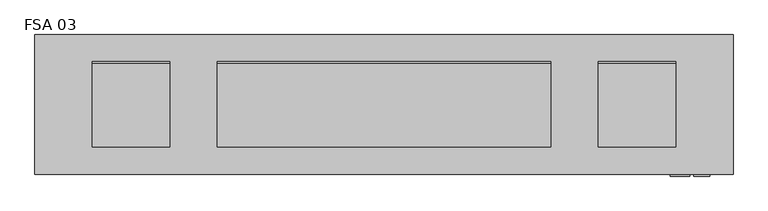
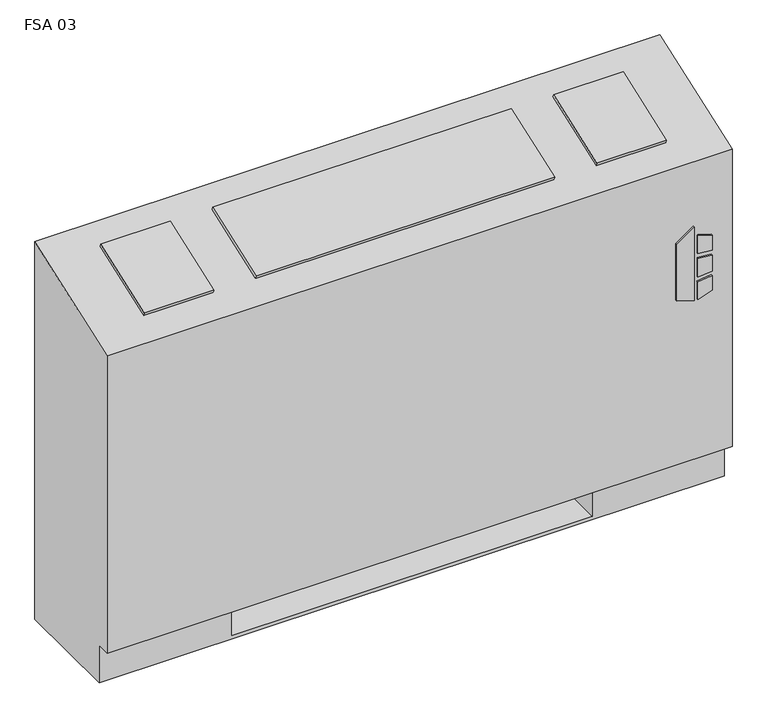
"""IFC4 building model written with IfcOpenShell, lengths in millimetres: proxy geometry, Vertical_Fan_Coil_Unit_-_FSA_-_IEC_-_2-Pipe_TS-FR_RH_2022 : FSA 03."""

from ifc_helpers import new_model, si_unit, point, frame, frame_2d, origin, place, context, project, spatial, polyline, circle_curve, trimmed, segment, composite_curve, outline, extrude, source, transform, mapped, element, save
from ifc_brep_helpers import plane_surface, revolved_surface, advanced_brep


def fsa_03_bbf9bb24(model_context):
    return source(origin(), model_context, "Body", "SolidModel", [
        extrude(outline(polyline([(391.6086829, 620.7868862), (381.6606126, 652.9602728), (523.831537, 652.9602728), (500.8095309, 620.7868862), (391.6086829, 620.7868862)])), frame((0.0, 12.7, 0.0), z_axis=(0.0, 1.0, 0.0), x_axis=(0.0, 0.0, 1.0)), (0.0, 0.0, 1.0), 3.175),
        extrude(outline(polyline([(470.6079683, 659.7186058), (467.4055757, 685.8), (496.6344168, 685.8), (504.6988318, 659.7186058), (470.6079683, 659.7186058)])), frame((0.0, 12.7, 0.0), z_axis=(0.0, 1.0, 0.0), x_axis=(0.0, 0.0, 1.0)), (0.0, 0.0, 1.0), 3.175),
        extrude(outline(polyline([(418.7444414, 685.8), (415.0789404, 659.7186058), (381.6606126, 659.7186058), (390.2948498, 685.8), (418.7444414, 685.8)])), frame((0.0, 12.7, 0.0), z_axis=(0.0, 1.0, 0.0), x_axis=(0.0, 0.0, 1.0)), (0.0, 0.0, 1.0), 3.175),
        extrude(outline(polyline([(458.0596028, 685.8), (460.3414292, 659.7186058), (424.4038806, 659.7186058), (427.1451456, 685.8), (458.0596028, 685.8)])), frame((0.0, 12.7, 0.0), z_axis=(0.0, 1.0, 0.0), x_axis=(0.0, 0.0, 1.0)), (0.0, 0.0, 1.0), 3.175),
        extrude(outline(polyline([(-298.45, 81.534), (-298.45, 223.266), (-177.8, 223.266), (-177.8, 81.534), (-298.45, 81.534)])), frame((0.0, 0.0, 327.025), z_axis=(0.0, 0.0, 1.0), x_axis=(1.0, 0.0, 0.0)), (0.0, 0.0, 1.0), 260.35),
        extrude(outline(composite_curve([segment(trimmed(circle_curve(frame_2d((546.1, 130.175)), 9.525), [point((536.575, 130.175))], [point((555.625, 130.175))], False, "CARTESIAN"), True, "CONTINUOUS"), segment(trimmed(circle_curve(frame_2d((546.1, 130.175)), 9.525), [point((555.625, 130.175))], [point((536.575, 130.175))], False, "CARTESIAN"), True, "CONTINUOUS")], self_intersect=False)), frame((0.0, 0.0, 101.6), z_axis=(0.0, 0.0, 1.0), x_axis=(1.0, 0.0, 0.0)), (0.0, 0.0, 1.0), 25.4),
        extrude(outline(polyline([(647.7, 196.85), (647.7, 63.5), (482.6, 63.5), (482.6, 196.85), (647.7, 196.85)])), frame((0.0, 0.0, 127.0), z_axis=(0.0, 0.0, 1.0), x_axis=(1.0, 0.0, 0.0)), (0.0, 0.0, 1.0), 50.8),
        extrude(outline(polyline([(0.0, -146.0500001), (0.0, 0.0), (127.0, 0.0), (127.0, -146.0500001), (0.0, -146.0500001)])), frame((-324.993, 200.4217127, 714.3418685), z_axis=(0.0, -0.3396444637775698, 0.9405538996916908), x_axis=(1.0, 0.0, 0.0)), (0.0, 0.0, 1.0), 6.35),
        extrude(outline(polyline([(0.0, -146.0500001), (0.0, 0.0), (546.1, 0.0), (546.1, -146.0500001), (0.0, -146.0500001)])), frame((425.45, 63.0538156, 664.7367945), z_axis=(0.0, -0.33964446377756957, 0.9405538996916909), x_axis=(-1.0, 0.0, 0.0)), (0.0, 0.0, 1.0), 6.35),
        extrude(outline(polyline([(0.0, -146.0500001), (0.0, 0.0), (127.0, 0.0), (127.0, -146.0500001), (0.0, -146.0500001)])), frame((629.793, 63.0538156, 664.7367945), z_axis=(0.0, -0.3396444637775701, 0.9405538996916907), x_axis=(-1.0, 0.0, 0.0)), (0.0, 0.0, 1.0), 6.35),
        extrude(outline(composite_curve([segment(trimmed(circle_curve(frame_2d((109.347, 456.819)), 7.9375), [point((109.347, 464.7565))], [point((109.347, 448.8815))], False, "CARTESIAN"), True, "CONTINUOUS"), segment(trimmed(circle_curve(frame_2d((109.347, 456.819)), 7.9375), [point((109.347, 448.8815))], [point((109.347, 464.7565))], False, "CARTESIAN"), True, "CONTINUOUS")], self_intersect=False)), frame((482.6, 0.0, 0.0), z_axis=(1.0, 0.0, 0.0), x_axis=(0.0, 1.0, 0.0)), (0.0, 0.0, 1.0), 50.8),
        extrude(outline(composite_curve([segment(trimmed(circle_curve(frame_2d((157.4546, 429.4632)), 7.9375), [point((157.4546, 437.4007))], [point((157.4546, 421.5257))], False, "CARTESIAN"), True, "CONTINUOUS"), segment(trimmed(circle_curve(frame_2d((157.4546, 429.4632)), 7.9375), [point((157.4546, 421.5257))], [point((157.4546, 437.4007))], False, "CARTESIAN"), True, "CONTINUOUS")], self_intersect=False)), frame((482.6, 0.0, 0.0), z_axis=(1.0, 0.0, 0.0), x_axis=(0.0, 1.0, 0.0)), (0.0, 0.0, 1.0), 50.8),
        advanced_brep(
        [(-419.1, 244.475, 0.0), (723.9, 244.475, 0.0), (723.9, 41.275, 0.0), (-419.1, 41.275, 0.0), (-419.1, 244.475, 730.25), (723.9, 244.475, 730.25), (482.6, 244.475, 73.025), (711.2, 244.475, 73.025), (711.2, 244.475, 654.05), (482.6, 244.475, 654.05), (482.6, 244.475, 414.8650565), (511.175, 244.475, 414.8650565), (511.175, 244.475, 385.2349435), (482.6, 244.475, 385.2349435), (482.6, 244.475, 287.3375), (511.175, 244.475, 287.3375), (511.175, 244.475, 258.7625), (482.6, 244.475, 258.7625), (482.6, 244.475, 141.2875), (511.175, 244.475, 141.2875), (511.175, 244.475, 112.7125), (482.6, 244.475, 112.7125), (-177.8, 244.475, 654.05), (-406.4, 244.475, 654.05), (-406.4, 244.475, 73.025), (-177.8, 244.475, 73.025), (-177.8, 244.475, 112.7125), (-206.375, 244.475, 112.7125), (-206.375, 244.475, 141.2875), (-177.8, 244.475, 141.2875), (-177.8, 244.475, 258.7625), (-206.375, 244.475, 258.7625), (-206.375, 244.475, 287.3375), (-177.8, 244.475, 287.3375), (-177.8, 244.475, 385.2349435), (-206.375, 244.475, 385.2349435), (-206.375, 244.475, 414.8650565), (-177.8, 244.475, 414.8650565), (500.8626, 244.475, 127.0), (489.7374, 244.475, 127.0), (500.8626, 244.475, 400.05), (489.7374, 244.475, 400.05), (500.8626, 244.475, 273.05), (489.7374, 244.475, 273.05), (-184.9374, 244.475, 127.0), (-196.0626, 244.475, 127.0), (-184.9374, 244.475, 273.05), (-196.0626, 244.475, 273.05), (-184.9374, 244.475, 400.05), (-196.0626, 244.475, 400.05), (-419.1, 41.275, 73.025), (-419.1, 15.875, 73.025), (-419.1, 15.875, 647.7), (723.9, 15.875, 73.025), (723.9, 15.875, 647.7), (723.9, 41.275, 73.025), (-177.8, 41.275, 73.025), (-177.8, 225.425, 73.025), (482.6, 225.425, 73.025), (482.6, 41.275, 73.025), (482.6, 41.275, 6.35), (-177.8, 41.275, 6.35), (482.6, 41.275, 654.05), (711.2, 41.275, 654.05), (711.2, 41.275, 73.025), (482.6, 41.275, 73.025), (-177.8, 41.275, 654.05), (-177.8, 41.275, 73.025), (-406.4, 41.275, 73.025), (-406.4, 41.275, 654.05), (482.6, 225.425, 73.025), (482.6, 238.125, 112.7125), (482.6, 238.125, 141.2875), (482.6, 238.125, 258.7625), (482.6, 238.125, 287.3375), (482.6, 238.125, 385.2349435), (482.6, 238.125, 414.8650565), (-177.8, 225.425, 73.025), (-177.8, 238.125, 414.8650565), (-177.8, 238.125, 385.2349435), (-177.8, 238.125, 287.3375), (-177.8, 238.125, 258.7625), (-177.8, 238.125, 141.2875), (-177.8, 238.125, 112.7125), (-177.8, 225.425, 6.35), (482.6, 225.425, 6.35), (511.175, 238.125, 112.7125), (511.175, 238.125, 141.2875), (489.7374, 238.125, 127.0), (500.8626, 238.125, 127.0), (511.175, 238.125, 258.7625), (511.175, 238.125, 287.3375), (489.7374, 238.125, 273.05), (500.8626, 238.125, 273.05), (511.175, 238.125, 385.2349435), (511.175, 238.125, 414.8650565), (489.7374, 238.125, 400.05), (500.8626, 238.125, 400.05), (-206.375, 238.125, 141.2875), (-206.375, 238.125, 112.7125), (-196.0626, 238.125, 127.0), (-184.9374, 238.125, 127.0), (-206.375, 238.125, 287.3375), (-206.375, 238.125, 258.7625), (-196.0626, 238.125, 273.05), (-184.9374, 238.125, 273.05), (-206.375, 238.125, 414.8650565), (-206.375, 238.125, 385.2349435), (-196.0626, 238.125, 400.05), (-184.9374, 238.125, 400.05)],
        [
            (0, 1),
            (1, 2),
            (2, 3),
            (3, 0),
            (0, 4),
            (4, 5),
            (5, 1),
            (6, 7),
            (7, 8),
            (8, 9),
            (9, 10),
            (10, 11),
            (11, 12),
            (12, 13),
            (13, 14),
            (14, 15),
            (15, 16),
            (16, 17),
            (17, 18),
            (18, 19),
            (19, 20),
            (20, 21),
            (21, 6),
            (22, 23),
            (23, 24),
            (24, 25),
            (25, 26),
            (26, 27),
            (27, 28),
            (28, 29),
            (29, 30),
            (30, 31),
            (31, 32),
            (32, 33),
            (33, 34),
            (34, 35),
            (35, 36),
            (36, 37),
            (37, 22),
            (38, 39, circle_curve(frame((495.3, 244.475, 127.0), z_axis=(0.0, -1.0, 0.0), x_axis=(-1.0, 0.0, 0.0)), 5.5626)),
            (39, 38, circle_curve(frame((495.3, 244.475, 127.0), z_axis=(0.0, -1.0, 0.0), x_axis=(-1.0, 0.0, 0.0)), 5.5626)),
            (40, 41, circle_curve(frame((495.3, 244.475, 400.05), z_axis=(0.0, -1.0, 0.0), x_axis=(-1.0, 0.0, 0.0)), 5.5626)),
            (41, 40, circle_curve(frame((495.3, 244.475, 400.05), z_axis=(0.0, -1.0, 0.0), x_axis=(-1.0, 0.0, 0.0)), 5.5626)),
            (42, 43, circle_curve(frame((495.3, 244.475, 273.05), z_axis=(0.0, -1.0, 0.0), x_axis=(-1.0, 0.0, 0.0)), 5.5626)),
            (43, 42, circle_curve(frame((495.3, 244.475, 273.05), z_axis=(0.0, -1.0, 0.0), x_axis=(-1.0, 0.0, 0.0)), 5.5626)),
            (44, 45, circle_curve(frame((-190.5, 244.475, 127.0), z_axis=(0.0, -1.0, 0.0), x_axis=(-1.0, 0.0, 0.0)), 5.5626)),
            (45, 44, circle_curve(frame((-190.5, 244.475, 127.0), z_axis=(0.0, -1.0, 0.0), x_axis=(-1.0, 0.0, 0.0)), 5.5626)),
            (46, 47, circle_curve(frame((-190.5, 244.475, 273.05), z_axis=(0.0, -1.0, 0.0), x_axis=(-1.0, 0.0, 0.0)), 5.5626)),
            (47, 46, circle_curve(frame((-190.5, 244.475, 273.05), z_axis=(0.0, -1.0, 0.0), x_axis=(-1.0, 0.0, 0.0)), 5.5626)),
            (48, 49, circle_curve(frame((-190.5, 244.475, 400.05), z_axis=(0.0, -1.0, 0.0), x_axis=(-1.0, 0.0, 0.0)), 5.5626)),
            (49, 48, circle_curve(frame((-190.5, 244.475, 400.05), z_axis=(0.0, -1.0, 0.0), x_axis=(-1.0, 0.0, 0.0)), 5.5626)),
            (3, 50),
            (50, 51),
            (51, 52),
            (52, 4),
            (51, 53),
            (53, 54),
            (54, 52),
            (5, 54),
            (53, 55),
            (55, 2),
            (50, 56),
            (56, 57),
            (57, 58),
            (58, 59),
            (59, 55),
            (59, 60),
            (60, 61),
            (61, 56),
            (62, 63),
            (63, 64),
            (64, 65),
            (65, 62),
            (66, 67),
            (67, 68),
            (68, 69),
            (69, 66),
            (65, 70),
            (70, 6),
            (21, 71),
            (71, 72),
            (72, 18),
            (17, 73),
            (73, 74),
            (74, 14),
            (13, 75),
            (75, 76),
            (76, 10),
            (9, 62),
            (64, 7),
            (63, 8),
            (69, 23),
            (22, 66),
            (68, 24),
            (67, 77),
            (77, 25),
            (37, 78),
            (78, 79),
            (79, 34),
            (33, 80),
            (80, 81),
            (81, 30),
            (29, 82),
            (82, 83),
            (83, 26),
            (57, 84),
            (84, 85),
            (85, 58),
            (85, 60),
            (84, 61),
            (71, 86),
            (86, 87),
            (87, 72),
            (88, 89, circle_curve(frame((495.3, 238.125, 127.0), z_axis=(0.0, 1.0, 0.0), x_axis=(-1.0, 0.0, 0.0)), 5.5626)),
            (89, 88, circle_curve(frame((495.3, 238.125, 127.0), z_axis=(0.0, 1.0, 0.0), x_axis=(-1.0, 0.0, 0.0)), 5.5626)),
            (73, 90),
            (90, 91),
            (91, 74),
            (92, 93, circle_curve(frame((495.3, 238.125, 273.05), z_axis=(0.0, 1.0, 0.0), x_axis=(-1.0, 0.0, 0.0)), 5.5626)),
            (93, 92, circle_curve(frame((495.3, 238.125, 273.05), z_axis=(0.0, 1.0, 0.0), x_axis=(-1.0, 0.0, 0.0)), 5.5626)),
            (75, 94),
            (94, 95),
            (95, 76),
            (96, 97, circle_curve(frame((495.3, 238.125, 400.05), z_axis=(0.0, 1.0, 0.0), x_axis=(-1.0, 0.0, 0.0)), 5.5626)),
            (97, 96, circle_curve(frame((495.3, 238.125, 400.05), z_axis=(0.0, 1.0, 0.0), x_axis=(-1.0, 0.0, 0.0)), 5.5626)),
            (98, 99),
            (99, 83),
            (82, 98),
            (100, 101, circle_curve(frame((-190.5, 238.125, 127.0), z_axis=(0.0, 1.0, 0.0), x_axis=(-1.0, 0.0, 0.0)), 5.5626)),
            (101, 100, circle_curve(frame((-190.5, 238.125, 127.0), z_axis=(0.0, 1.0, 0.0), x_axis=(-1.0, 0.0, 0.0)), 5.5626)),
            (102, 103),
            (103, 81),
            (80, 102),
            (104, 105, circle_curve(frame((-190.5, 238.125, 273.05), z_axis=(0.0, 1.0, 0.0), x_axis=(-1.0, 0.0, 0.0)), 5.5626)),
            (105, 104, circle_curve(frame((-190.5, 238.125, 273.05), z_axis=(0.0, 1.0, 0.0), x_axis=(-1.0, 0.0, 0.0)), 5.5626)),
            (106, 107),
            (107, 79),
            (78, 106),
            (108, 109, circle_curve(frame((-190.5, 238.125, 400.05), z_axis=(0.0, 1.0, 0.0), x_axis=(-1.0, 0.0, 0.0)), 5.5626)),
            (109, 108, circle_curve(frame((-190.5, 238.125, 400.05), z_axis=(0.0, 1.0, 0.0), x_axis=(-1.0, 0.0, 0.0)), 5.5626)),
            (87, 19),
            (86, 20),
            (91, 15),
            (90, 16),
            (95, 11),
            (94, 12),
            (28, 98),
            (99, 27),
            (32, 102),
            (103, 31),
            (36, 106),
            (107, 35),
            (88, 39),
            (38, 89),
            (96, 41),
            (40, 97),
            (92, 43),
            (42, 93),
            (100, 45),
            (44, 101),
            (104, 47),
            (46, 105),
            (108, 49),
            (48, 109),
        ],
        [
            plane_surface(frame((-419.1, 244.475, 0.0), z_axis=(0.0, 0.0, -1.0), x_axis=(1.0, 0.0, 0.0))),
            plane_surface(frame((723.9, 244.475, 730.25), z_axis=(0.0, 1.0, 0.0), x_axis=(0.0, 0.0, -1.0))),
            plane_surface(frame((-419.1, 244.475, 730.25), z_axis=(-1.0, 0.0, 0.0), x_axis=(0.0, 0.0, -1.0))),
            plane_surface(frame((-419.1, 15.875, 730.25), z_axis=(0.0, -1.0, 0.0), x_axis=(0.0, 0.0, -1.0))),
            plane_surface(frame((723.9, 15.875, 730.25), z_axis=(1.0, 0.0, 0.0), x_axis=(0.0, 0.0, -1.0))),
            plane_surface(frame((-419.1, 15.875, 73.025), z_axis=(0.0, 0.0, -1.0), x_axis=(1.0, 0.0, 0.0))),
            plane_surface(frame((-419.1, 41.275, 73.025), z_axis=(0.0, -1.0, 0.0), x_axis=(1.0, 0.0, 0.0))),
            plane_surface(frame((482.6, 41.275, 654.05), z_axis=(0.0, 1.0, 0.0), x_axis=(0.0, 0.0, -1.0))),
            plane_surface(frame((482.6, 41.275, 654.05), z_axis=(1.0, 0.0, 0.0), x_axis=(0.0, 1.0, 0.0))),
            plane_surface(frame((482.6, 41.275, 73.025), z_axis=(0.0, 0.0, 1.0), x_axis=(0.0, 1.0, 0.0))),
            plane_surface(frame((711.2, 41.275, 73.025), z_axis=(-1.0, 0.0, 0.0), x_axis=(0.0, 1.0, 0.0))),
            plane_surface(frame((711.2, 41.275, 654.05), z_axis=(0.0, 0.0, -1.0), x_axis=(0.0, 1.0, 0.0))),
            plane_surface(frame((-177.8, 41.275, 654.05), z_axis=(0.0, 0.0, -1.0), x_axis=(0.0, 1.0, 0.0))),
            plane_surface(frame((-406.4, 41.275, 654.05), z_axis=(1.0, 0.0, 0.0), x_axis=(0.0, 1.0, 0.0))),
            plane_surface(frame((-406.4, 41.275, 73.025), z_axis=(0.0, 0.0, 1.0), x_axis=(0.0, 1.0, 0.0))),
            plane_surface(frame((-177.8, 41.275, 73.025), z_axis=(-1.0, 0.0, 0.0), x_axis=(0.0, 1.0, 0.0))),
            plane_surface(frame((482.6, 225.425, 73.025), z_axis=(0.0, -1.0, 0.0), x_axis=(0.0, 0.0, -1.0))),
            plane_surface(frame((482.6, 225.425, 73.025), z_axis=(-1.0, 0.0, 0.0), x_axis=(0.0, -1.0, 0.0))),
            plane_surface(frame((482.6, 225.425, 6.35), z_axis=(0.0, 0.0, 1.0), x_axis=(0.0, -1.0, 0.0))),
            plane_surface(frame((-177.8, 225.425, 6.35), z_axis=(1.0, 0.0, 0.0), x_axis=(0.0, -1.0, 0.0))),
            plane_surface(frame((511.175, 238.125, 141.2875), z_axis=(0.0, -1.0, 0.0), x_axis=(-1.0, 0.0, 0.0))),
            plane_surface(frame((482.6, 244.475, 141.2875), z_axis=(0.0, 0.0, 1.0), x_axis=(0.0, -1.0, 0.0))),
            plane_surface(frame((511.175, 244.475, 141.2875), z_axis=(1.0, 0.0, 0.0), x_axis=(0.0, -1.0, 0.0))),
            plane_surface(frame((511.175, 244.475, 112.7125), z_axis=(0.0, 0.0, -1.0), x_axis=(0.0, -1.0, 0.0))),
            plane_surface(frame((482.6, 244.475, 287.3375), z_axis=(0.0, 0.0, 1.0), x_axis=(0.0, -1.0, 0.0))),
            plane_surface(frame((511.175, 244.475, 287.3375), z_axis=(1.0, 0.0, 0.0), x_axis=(0.0, -1.0, 0.0))),
            plane_surface(frame((511.175, 244.475, 258.7625), z_axis=(0.0, 0.0, -1.0), x_axis=(0.0, -1.0, 0.0))),
            plane_surface(frame((482.6, 244.475, 414.8650565), z_axis=(0.0, 0.0, 1.0), x_axis=(0.0, -1.0, 0.0))),
            plane_surface(frame((511.175, 244.475, 414.8650565), z_axis=(1.0, 0.0, 0.0), x_axis=(0.0, -1.0, 0.0))),
            plane_surface(frame((511.175, 244.475, 385.2349435), z_axis=(0.0, 0.0, -1.0), x_axis=(0.0, -1.0, 0.0))),
            plane_surface(frame((-206.375, 244.475, 141.2875), z_axis=(0.0, 0.0, 1.0), x_axis=(0.0, -1.0, 0.0))),
            plane_surface(frame((-177.8, 244.475, 112.7125), z_axis=(0.0, 0.0, -1.0), x_axis=(0.0, -1.0, 0.0))),
            plane_surface(frame((-206.375, 244.475, 112.7125), z_axis=(-1.0, 0.0, 0.0), x_axis=(0.0, -1.0, 0.0))),
            plane_surface(frame((-206.375, 244.475, 287.3375), z_axis=(0.0, 0.0, 1.0), x_axis=(0.0, -1.0, 0.0))),
            plane_surface(frame((-177.8, 244.475, 258.7625), z_axis=(0.0, 0.0, -1.0), x_axis=(0.0, -1.0, 0.0))),
            plane_surface(frame((-206.375, 244.475, 258.7625), z_axis=(-1.0, 0.0, 0.0), x_axis=(0.0, -1.0, 0.0))),
            plane_surface(frame((-206.375, 244.475, 414.8650565), z_axis=(0.0, 0.0, 1.0), x_axis=(0.0, -1.0, 0.0))),
            plane_surface(frame((-177.8, 244.475, 385.2349435), z_axis=(0.0, 0.0, -1.0), x_axis=(0.0, -1.0, 0.0))),
            plane_surface(frame((-206.375, 244.475, 385.2349435), z_axis=(-1.0, 0.0, 0.0), x_axis=(0.0, -1.0, 0.0))),
            revolved_surface(polyline([(489.73740000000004, 238.125, 127.0), (489.73740000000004, 244.475, 127.0)]), (495.3, 244.475, 127.0), (0.0, -1.0, 0.0)),
            revolved_surface(polyline([(489.73740000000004, 238.125, 400.05), (489.73740000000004, 244.475, 400.05)]), (495.3, 244.475, 400.05), (0.0, -1.0, 0.0)),
            revolved_surface(polyline([(489.73740000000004, 238.125, 273.05), (489.73740000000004, 244.475, 273.05)]), (495.3, 244.475, 273.05), (0.0, -1.0, 0.0)),
            revolved_surface(polyline([(-196.0626, 238.125, 127.0), (-196.0626, 244.475, 127.0)]), (-190.5, 244.475, 127.0), (0.0, -1.0, 0.0)),
            revolved_surface(polyline([(-196.0626, 238.125, 273.05), (-196.0626, 244.475, 273.05)]), (-190.5, 244.475, 273.05), (0.0, -1.0, 0.0)),
            revolved_surface(polyline([(-196.0626, 238.125, 400.05), (-196.0626, 244.475, 400.05)]), (-190.5, 244.475, 400.05), (0.0, -1.0, 0.0)),
            plane_surface(frame((-419.1, 244.475, 730.25), z_axis=(0.0, -0.33964446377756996, 0.9405538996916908), x_axis=(1.0, 0.0, 0.0))),
        ],
        [
            (0, [[1, 2, 3, 4]]),
            (1, [[-1, 5, 6, 7], [8, 9, 10, 11, 12, 13, 14, 15, 16, 17, 18, 19, 20, 21, 22, 23], [24, 25, 26, 27, 28, 29, 30, 31, 32, 33, 34, 35, 36, 37, 38, 39], [40, 41], [42, 43], [44, 45], [46, 47], [48, 49], [50, 51]]),
            (2, [[-5, -4, 52, 53, 54, 55]]),
            (3, [[56, 57, 58, -54]]),
            (4, [[-7, 59, -57, 60, 61, -2]]),
            (5, [[-53, 62, 63, 64, 65, 66, -60, -56]]),
            (6, [[-3, -61, -66, 67, 68, 69, -62, -52]]),
            (7, [[70, 71, 72, 73]]),
            (7, [[74, 75, 76, 77]]),
            (8, [[-73, 78, 79, -23, 80, 81, 82, -19, 83, 84, 85, -15, 86, 87, 88, -11, 89]]),
            (9, [[-72, 90, -8, -79, -78]]),
            (10, [[-71, 91, -9, -90]]),
            (11, [[-70, -89, -10, -91]]),
            (12, [[-77, 92, -24, 93]]),
            (13, [[-76, 94, -25, -92]]),
            (14, [[-75, 95, 96, -26, -94]]),
            (15, [[-74, -93, -39, 97, 98, 99, -35, 100, 101, 102, -31, 103, 104, 105, -27, -96, -95]]),
            (16, [[-64, 106, 107, 108]]),
            (17, [[-108, 109, -67, -65]]),
            (18, [[-107, 110, -68, -109]]),
            (19, [[-106, -63, -69, -110]]),
            (20, [[111, 112, 113, -81], [114, 115]]),
            (20, [[116, 117, 118, -84], [119, 120]]),
            (20, [[121, 122, 123, -87], [124, 125]]),
            (20, [[126, 127, -104, 128], [129, 130]]),
            (20, [[131, 132, -101, 133], [134, 135]]),
            (20, [[136, 137, -98, 138], [139, 140]]),
            (21, [[-113, 141, -20, -82]]),
            (22, [[-112, 142, -21, -141]]),
            (23, [[-111, -80, -22, -142]]),
            (24, [[-118, 143, -16, -85]]),
            (25, [[-117, 144, -17, -143]]),
            (26, [[-116, -83, -18, -144]]),
            (27, [[-123, 145, -12, -88]]),
            (28, [[-122, 146, -13, -145]]),
            (29, [[-121, -86, -14, -146]]),
            (30, [[-128, -103, -30, 147]]),
            (31, [[-127, 148, -28, -105]]),
            (32, [[-126, -147, -29, -148]]),
            (33, [[-133, -100, -34, 149]]),
            (34, [[-132, 150, -32, -102]]),
            (35, [[-131, -149, -33, -150]]),
            (36, [[-138, -97, -38, 151]]),
            (37, [[-137, 152, -36, -99]]),
            (38, [[-136, -151, -37, -152]]),
            (39, [[153, -40, 154, -114]]),
            (39, [[-153, -115, -154, -41]]),
            (40, [[155, -42, 156, -124]]),
            (40, [[-155, -125, -156, -43]]),
            (41, [[157, -44, 158, -119]]),
            (41, [[-157, -120, -158, -45]]),
            (42, [[159, -46, 160, -129]]),
            (42, [[-159, -130, -160, -47]]),
            (43, [[161, -48, 162, -134]]),
            (43, [[-161, -135, -162, -49]]),
            (44, [[163, -50, 164, -139]]),
            (44, [[-163, -140, -164, -51]]),
            (45, [[-6, -55, -58, -59]]),
        ],
    ),
    ])


if __name__ == "__main__":
    model = new_model("IFC4")
    model_context = context("Model", 3, world=origin())
    ifc_project = project(units=[si_unit("LENGTHUNIT", "METRE", prefix="MILLI")], contexts=[model_context])
    site = spatial("IfcSite", under=ifc_project)
    building = spatial("IfcBuilding", under=site)
    placement = place(None, origin())
    fsa_03_shape = fsa_03_bbf9bb24(model_context)
    element("IfcBuildingElementProxy", 1, Name="Vertical_Fan_Coil_Unit_-_FSA_-_IEC_-_2-Pipe_TS-FR_RH_2022 : FSA 03", ObjectType="Vertical_Fan_Coil_Unit_-_FSA_-_IEC_-_2-Pipe_TS-FR_RH_2022 : FSA 03", at=placement, inside=building, context=model_context, shape_type="MappedRepresentation", body=[
        mapped(fsa_03_shape, transform((0.0, 0.0, 0.0), x_axis=(1.0, 0.0, 0.0), y_axis=(0.0, 1.0, 0.0), z_axis=(0.0, 0.0, 1.0))),
    ])
    save(model, "model.ifc")
